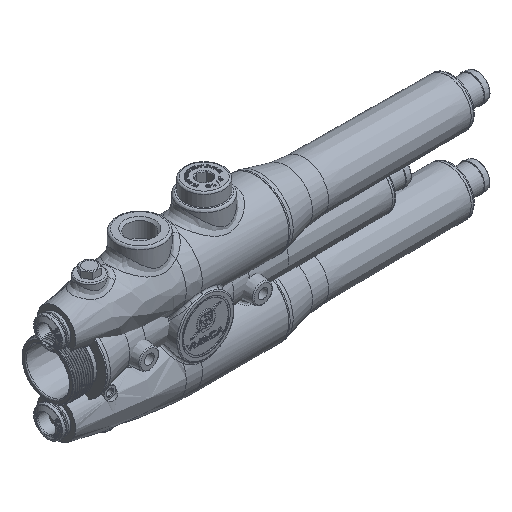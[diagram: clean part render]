
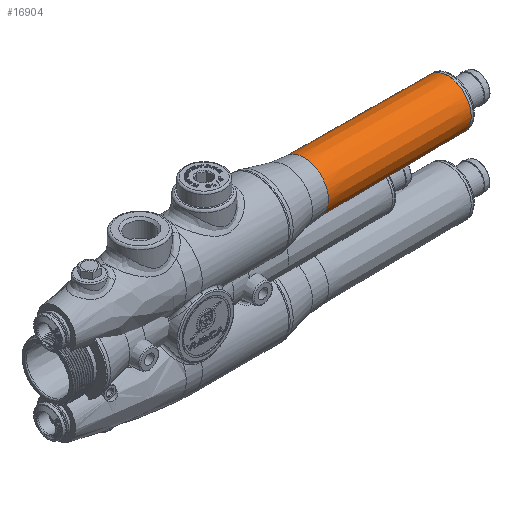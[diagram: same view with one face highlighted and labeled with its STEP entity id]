
A CAD part, isometric view. The second image highlights one B-rep face of the part: STEP entity #16904.
In plain terms, the highlighted conical face has half-angle 0.408 degrees and reference radius 11 mm.
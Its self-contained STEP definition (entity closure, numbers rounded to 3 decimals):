
#16904 = ADVANCED_FACE( '', ( #23682, #23683 ), #23684, .T. );
#23682 = FACE_OUTER_BOUND( '', #26954, .T. );
#23683 = FACE_BOUND( '', #26955, .T. );
#23684 = CONICAL_SURFACE( '', #26956, 11., 0.007 );
#26954 = EDGE_LOOP( '', ( #30865 ) );
#26955 = EDGE_LOOP( '', ( #30866 ) );
#26956 = AXIS2_PLACEMENT_3D( '', #30867, #30868, #30869 );
#30865 = ORIENTED_EDGE( '', *, *, #47781, .F. );
#30866 = ORIENTED_EDGE( '', *, *, #47782, .T. );
#30867 = CARTESIAN_POINT( '', ( 50.75, 0., 0. ) );
#30868 = DIRECTION( '', ( -1., 0., 0. ) );
#30869 = DIRECTION( '', ( 0., 0., 1. ) );
#47781 = EDGE_CURVE( '', #49858, #49858, #49859, .T. );
#47782 = EDGE_CURVE( '', #49860, #49860, #49861, .T. );
#49858 = VERTEX_POINT( '', #50555 );
#49859 = CIRCLE( '', #50556, 11.477 );
#49860 = VERTEX_POINT( '', #50557 );
#49861 = CIRCLE( '', #50558, 11. );
#50555 = CARTESIAN_POINT( '', ( -16.248, 0., 11.477 ) );
#50556 = AXIS2_PLACEMENT_3D( '', #50638, #50639, #50640 );
#50557 = CARTESIAN_POINT( '', ( 50.75, 0., 11. ) );
#50558 = AXIS2_PLACEMENT_3D( '', #50641, #50642, #50643 );
#50638 = CARTESIAN_POINT( '', ( -16.248, 0., 0. ) );
#50639 = DIRECTION( '', ( -1., 0., 0. ) );
#50640 = DIRECTION( '', ( 0., 0., 1. ) );
#50641 = CARTESIAN_POINT( '', ( 50.75, 0., 0. ) );
#50642 = DIRECTION( '', ( -1., 0., 0. ) );
#50643 = DIRECTION( '', ( 0., 0., 1. ) );
